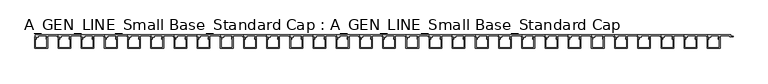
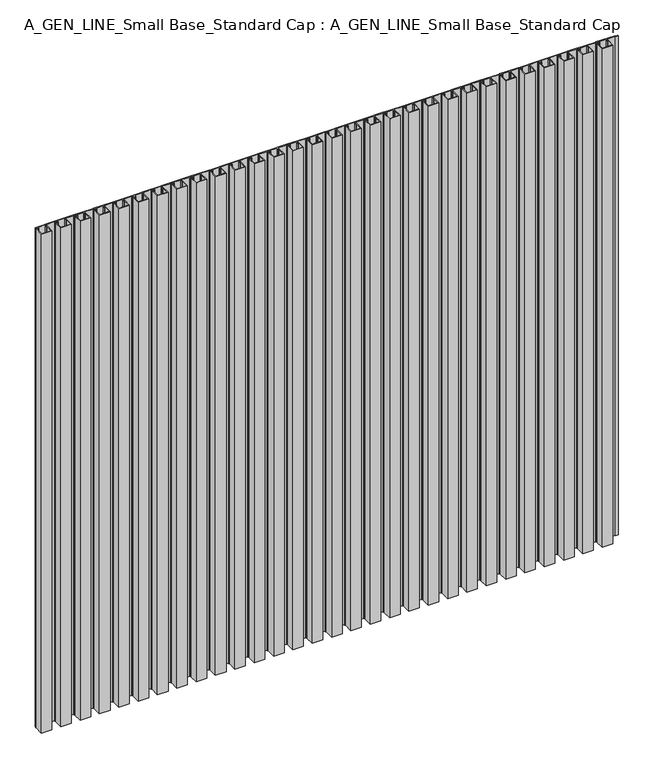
"""IFC4 building model written with IfcOpenShell, lengths in millimetres: proxy geometry, A_GEN_LINE_Small Base_Standard Cap : A_GEN_LINE_Small Base_Standard Cap."""

from ifc_helpers import new_model, si_unit, origin, origin_with_axes, place, context, project, spatial, polyline, outline, extrude, source, transform, mapped, element, save


def a_gen_line_small_base_standard_cap_a_gen_line_small_base_28fe45ff(model_context):
    return source(origin(), model_context, "Body", "SweptSolid", [
        extrude(outline(polyline([(1594.5994542, -32.2007192), (1594.5994542, -6.1), (1596.7484612, -6.1), (1596.7484612, -8.3419727), (1595.9994542, -8.5826662), (1595.9994542, -30.8007192), (1623.1994542, -30.8007192), (1623.1994542, -8.5826662), (1622.4504472, -8.3419727), (1622.4504472, -6.1), (1624.5994542, -6.1), (1624.5994542, -32.2007192), (1594.5994542, -32.2007192)])), origin_with_axes(), (0.0, 0.0, 1.0), 1500.0),
        extrude(outline(polyline([(1539.5989548, -32.2007192), (1539.5989548, -6.1), (1541.7479618, -6.1), (1541.7479618, -8.3419727), (1540.9989548, -8.5826662), (1540.9989548, -30.8007192), (1568.1989548, -30.8007192), (1568.1989548, -8.5826662), (1567.4499478, -8.3419727), (1567.4499478, -6.1), (1569.5989548, -6.1), (1569.5989548, -32.2007192), (1539.5989548, -32.2007192)])), origin_with_axes(), (0.0, 0.0, 1.0), 1500.0),
        extrude(outline(polyline([(1484.5984554, -32.2007192), (1484.5984554, -6.1), (1486.7474624, -6.1), (1486.7474624, -8.3419727), (1485.9984554, -8.5826662), (1485.9984554, -30.8007192), (1513.1984554, -30.8007192), (1513.1984554, -8.5826662), (1512.4494485, -8.3419727), (1512.4494485, -6.1), (1514.5984554, -6.1), (1514.5984554, -32.2007192), (1484.5984554, -32.2007192)])), origin_with_axes(), (0.0, 0.0, 1.0), 1500.0),
        extrude(outline(polyline([(1429.597956, -32.2007192), (1429.597956, -6.1), (1431.746963, -6.1), (1431.746963, -8.3419727), (1430.997956, -8.5826662), (1430.997956, -30.8007192), (1458.197956, -30.8007192), (1458.197956, -8.5826662), (1457.4489491, -8.3419727), (1457.4489491, -6.1), (1459.597956, -6.1), (1459.597956, -32.2007192), (1429.597956, -32.2007192)])), origin_with_axes(), (0.0, 0.0, 1.0), 1500.0),
        extrude(outline(polyline([(1374.5974566, -32.2007192), (1374.5974566, -6.1), (1376.7464636, -6.1), (1376.7464636, -8.3419727), (1375.9974566, -8.5826662), (1375.9974566, -30.8007192), (1403.1974566, -30.8007192), (1403.1974566, -8.5826662), (1402.4484497, -8.3419727), (1402.4484497, -6.1), (1404.5974566, -6.1), (1404.5974566, -32.2007192), (1374.5974566, -32.2007192)])), origin_with_axes(), (0.0, 0.0, 1.0), 1500.0),
        extrude(outline(polyline([(1319.5969572, -32.2007192), (1319.5969572, -6.1), (1321.7459642, -6.1), (1321.7459642, -8.3419727), (1320.9969572, -8.5826662), (1320.9969572, -30.8007192), (1348.1969572, -30.8007192), (1348.1969572, -8.5826662), (1347.4479503, -8.3419727), (1347.4479503, -6.1), (1349.5969572, -6.1), (1349.5969572, -32.2007192), (1319.5969572, -32.2007192)])), origin_with_axes(), (0.0, 0.0, 1.0), 1500.0),
        extrude(outline(polyline([(1264.5964579, -32.2007192), (1264.5964579, -6.1), (1266.7454648, -6.1), (1266.7454648, -8.3419727), (1265.9964579, -8.5826662), (1265.9964579, -30.8007192), (1293.1964579, -30.8007192), (1293.1964579, -8.5826662), (1292.4474509, -8.3419727), (1292.4474509, -6.1), (1294.5964579, -6.1), (1294.5964579, -32.2007192), (1264.5964579, -32.2007192)])), origin_with_axes(), (0.0, 0.0, 1.0), 1500.0),
        extrude(outline(polyline([(1209.5959585, -32.2007192), (1209.5959585, -6.1), (1211.7449654, -6.1), (1211.7449654, -8.3419727), (1210.9959585, -8.5826662), (1210.9959585, -30.8007192), (1238.1959585, -30.8007192), (1238.1959585, -8.5826662), (1237.4469515, -8.3419727), (1237.4469515, -6.1), (1239.5959585, -6.1), (1239.5959585, -32.2007192), (1209.5959585, -32.2007192)])), origin_with_axes(), (0.0, 0.0, 1.0), 1500.0),
        extrude(outline(polyline([(1595.0, 0.0), (1649.5728944, 0.0), (1649.5728944, -2.85), (1655.5728944, -2.85), (1655.5728944, -4.2), (1648.0545393, -4.2), (1648.0545393, -2.4), (1624.5849719, -2.4), (1624.5849719, -6.1021884), (1623.4699984, -6.1021884), (1621.8814326, -8.4994005), (1623.1433665, -8.4994005), (1623.1433665, -10.4818695), (1620.9408405, -10.4818695), (1620.9408405, -5.6343123), (1623.0399616, -2.4), (1602.2195527, -2.4), (1602.2195527, -6.1), (1598.2291033, -6.1), (1598.2291033, -10.4818695), (1596.0265772, -10.4818695), (1596.0265772, -8.4994005), (1597.2885111, -8.4994005), (1595.6999453, -6.1021884), (1594.6137598, -6.1021884), (1594.6137598, -4.9), (1601.0195527, -4.9), (1601.0195527, -2.7), (1595.0, -2.7), (1595.0, 0.0)])), origin_with_axes(), (0.0, 0.0, 1.0), 1500.0),
        extrude(outline(polyline([(1540.0, 0.0), (1594.5728944, 0.0), (1594.5728944, -2.85), (1600.5728944, -2.85), (1600.5728944, -4.2), (1593.0545393, -4.2), (1593.0545393, -2.4), (1569.5849719, -2.4), (1569.5849719, -6.1021884), (1568.4699984, -6.1021884), (1566.8814326, -8.4994005), (1568.1433665, -8.4994005), (1568.1433665, -10.4818695), (1565.9408405, -10.4818695), (1565.9408405, -5.6343123), (1568.0399616, -2.4), (1547.2195527, -2.4), (1547.2195527, -6.1), (1543.2291033, -6.1), (1543.2291033, -10.4818695), (1541.0265772, -10.4818695), (1541.0265772, -8.4994005), (1542.2885111, -8.4994005), (1540.6999453, -6.1021884), (1539.6137598, -6.1021884), (1539.6137598, -4.9), (1546.0195527, -4.9), (1546.0195527, -2.7), (1540.0, -2.7), (1540.0, 0.0)])), origin_with_axes(), (0.0, 0.0, 1.0), 1500.0),
        extrude(outline(polyline([(1485.0, 0.0), (1539.5728944, 0.0), (1539.5728944, -2.85), (1545.5728944, -2.85), (1545.5728944, -4.2), (1538.0545393, -4.2), (1538.0545393, -2.4), (1514.5849719, -2.4), (1514.5849719, -6.1021884), (1513.4699984, -6.1021884), (1511.8814326, -8.4994005), (1513.1433665, -8.4994005), (1513.1433665, -10.4818695), (1510.9408405, -10.4818695), (1510.9408405, -5.6343123), (1513.0399616, -2.4), (1492.2195527, -2.4), (1492.2195527, -6.1), (1488.2291033, -6.1), (1488.2291033, -10.4818695), (1486.0265772, -10.4818695), (1486.0265772, -8.4994005), (1487.2885111, -8.4994005), (1485.6999453, -6.1021884), (1484.6137598, -6.1021884), (1484.6137598, -4.9), (1491.0195527, -4.9), (1491.0195527, -2.7), (1485.0, -2.7), (1485.0, 0.0)])), origin_with_axes(), (0.0, 0.0, 1.0), 1500.0),
        extrude(outline(polyline([(1430.0, 0.0), (1484.5728944, 0.0), (1484.5728944, -2.85), (1490.5728944, -2.85), (1490.5728944, -4.2), (1483.0545393, -4.2), (1483.0545393, -2.4), (1459.5849719, -2.4), (1459.5849719, -6.1021884), (1458.4699984, -6.1021884), (1456.8814326, -8.4994005), (1458.1433665, -8.4994005), (1458.1433665, -10.4818695), (1455.9408405, -10.4818695), (1455.9408405, -5.6343123), (1458.0399616, -2.4), (1437.2195527, -2.4), (1437.2195527, -6.1), (1433.2291033, -6.1), (1433.2291033, -10.4818695), (1431.0265772, -10.4818695), (1431.0265772, -8.4994005), (1432.2885111, -8.4994005), (1430.6999453, -6.1021884), (1429.6137598, -6.1021884), (1429.6137598, -4.9), (1436.0195527, -4.9), (1436.0195527, -2.7), (1430.0, -2.7), (1430.0, 0.0)])), origin_with_axes(), (0.0, 0.0, 1.0), 1500.0),
        extrude(outline(polyline([(1375.0, 0.0), (1429.5728944, 0.0), (1429.5728944, -2.85), (1435.5728944, -2.85), (1435.5728944, -4.2), (1428.0545393, -4.2), (1428.0545393, -2.4), (1404.5849719, -2.4), (1404.5849719, -6.1021884), (1403.4699984, -6.1021884), (1401.8814326, -8.4994005), (1403.1433665, -8.4994005), (1403.1433665, -10.4818695), (1400.9408405, -10.4818695), (1400.9408405, -5.6343123), (1403.0399616, -2.4), (1382.2195527, -2.4), (1382.2195527, -6.1), (1378.2291033, -6.1), (1378.2291033, -10.4818695), (1376.0265772, -10.4818695), (1376.0265772, -8.4994005), (1377.2885111, -8.4994005), (1375.6999453, -6.1021884), (1374.6137598, -6.1021884), (1374.6137598, -4.9), (1381.0195527, -4.9), (1381.0195527, -2.7), (1375.0, -2.7), (1375.0, 0.0)])), origin_with_axes(), (0.0, 0.0, 1.0), 1500.0),
        extrude(outline(polyline([(1320.0, 0.0), (1374.5728944, 0.0), (1374.5728944, -2.85), (1380.5728944, -2.85), (1380.5728944, -4.2), (1373.0545393, -4.2), (1373.0545393, -2.4), (1349.5849719, -2.4), (1349.5849719, -6.1021884), (1348.4699984, -6.1021884), (1346.8814326, -8.4994005), (1348.1433665, -8.4994005), (1348.1433665, -10.4818695), (1345.9408405, -10.4818695), (1345.9408405, -5.6343123), (1348.0399616, -2.4), (1327.2195527, -2.4), (1327.2195527, -6.1), (1323.2291033, -6.1), (1323.2291033, -10.4818695), (1321.0265772, -10.4818695), (1321.0265772, -8.4994005), (1322.2885111, -8.4994005), (1320.6999453, -6.1021884), (1319.6137598, -6.1021884), (1319.6137598, -4.9), (1326.0195527, -4.9), (1326.0195527, -2.7), (1320.0, -2.7), (1320.0, 0.0)])), origin_with_axes(), (0.0, 0.0, 1.0), 1500.0),
        extrude(outline(polyline([(1265.0, 0.0), (1319.5728944, 0.0), (1319.5728944, -2.85), (1325.5728944, -2.85), (1325.5728944, -4.2), (1318.0545393, -4.2), (1318.0545393, -2.4), (1294.5849719, -2.4), (1294.5849719, -6.1021884), (1293.4699984, -6.1021884), (1291.8814326, -8.4994005), (1293.1433665, -8.4994005), (1293.1433665, -10.4818695), (1290.9408405, -10.4818695), (1290.9408405, -5.6343123), (1293.0399616, -2.4), (1272.2195527, -2.4), (1272.2195527, -6.1), (1268.2291033, -6.1), (1268.2291033, -10.4818695), (1266.0265772, -10.4818695), (1266.0265772, -8.4994005), (1267.2885111, -8.4994005), (1265.6999453, -6.1021884), (1264.6137598, -6.1021884), (1264.6137598, -4.9), (1271.0195527, -4.9), (1271.0195527, -2.7), (1265.0, -2.7), (1265.0, 0.0)])), origin_with_axes(), (0.0, 0.0, 1.0), 1500.0),
        extrude(outline(polyline([(1210.0, 0.0), (1264.5728944, 0.0), (1264.5728944, -2.85), (1270.5728944, -2.85), (1270.5728944, -4.2), (1263.0545393, -4.2), (1263.0545393, -2.4), (1239.5849719, -2.4), (1239.5849719, -6.1021884), (1238.4699984, -6.1021884), (1236.8814326, -8.4994005), (1238.1433665, -8.4994005), (1238.1433665, -10.4818695), (1235.9408405, -10.4818695), (1235.9408405, -5.6343123), (1238.0399616, -2.4), (1217.2195527, -2.4), (1217.2195527, -6.1), (1213.2291033, -6.1), (1213.2291033, -10.4818695), (1211.0265772, -10.4818695), (1211.0265772, -8.4994005), (1212.2885111, -8.4994005), (1210.6999453, -6.1021884), (1209.6137598, -6.1021884), (1209.6137598, -4.9), (1216.0195527, -4.9), (1216.0195527, -2.7), (1210.0, -2.7), (1210.0, 0.0)])), origin_with_axes(), (0.0, 0.0, 1.0), 1500.0),
        extrude(outline(polyline([(1154.5954591, -32.2007192), (1154.5954591, -6.1), (1156.744466, -6.1), (1156.744466, -8.3419727), (1155.9954591, -8.5826662), (1155.9954591, -30.8007192), (1183.1954591, -30.8007192), (1183.1954591, -8.5826662), (1182.4464521, -8.3419727), (1182.4464521, -6.1), (1184.5954591, -6.1), (1184.5954591, -32.2007192), (1154.5954591, -32.2007192)])), origin_with_axes(), (0.0, 0.0, 1.0), 1500.0),
        extrude(outline(polyline([(1099.5949597, -32.2007192), (1099.5949597, -6.1), (1101.7439666, -6.1), (1101.7439666, -8.3419727), (1100.9949597, -8.5826662), (1100.9949597, -30.8007192), (1128.1949597, -30.8007192), (1128.1949597, -8.5826662), (1127.4459527, -8.3419727), (1127.4459527, -6.1), (1129.5949597, -6.1), (1129.5949597, -32.2007192), (1099.5949597, -32.2007192)])), origin_with_axes(), (0.0, 0.0, 1.0), 1500.0),
        extrude(outline(polyline([(1044.5944603, -32.2007192), (1044.5944603, -6.1), (1046.7434673, -6.1), (1046.7434673, -8.3419727), (1045.9944603, -8.5826662), (1045.9944603, -30.8007192), (1073.1944603, -30.8007192), (1073.1944603, -8.5826662), (1072.4454533, -8.3419727), (1072.4454533, -6.1), (1074.5944603, -6.1), (1074.5944603, -32.2007192), (1044.5944603, -32.2007192)])), origin_with_axes(), (0.0, 0.0, 1.0), 1500.0),
        extrude(outline(polyline([(989.5939609, -32.2007192), (989.5939609, -6.1), (991.7429679, -6.1), (991.7429679, -8.3419727), (990.9939609, -8.5826662), (990.9939609, -30.8007192), (1018.1939609, -30.8007192), (1018.1939609, -8.5826662), (1017.4449539, -8.3419727), (1017.4449539, -6.1), (1019.5939609, -6.1), (1019.5939609, -32.2007192), (989.5939609, -32.2007192)])), origin_with_axes(), (0.0, 0.0, 1.0), 1500.0),
        extrude(outline(polyline([(934.5934615, -32.2007192), (934.5934615, -6.1), (936.7424685, -6.1), (936.7424685, -8.3419727), (935.9934615, -8.5826662), (935.9934615, -30.8007192), (963.1934615, -30.8007192), (963.1934615, -8.5826662), (962.4444546, -8.3419727), (962.4444546, -6.1), (964.5934615, -6.1), (964.5934615, -32.2007192), (934.5934615, -32.2007192)])), origin_with_axes(), (0.0, 0.0, 1.0), 1500.0),
        extrude(outline(polyline([(879.5929621, -32.2007192), (879.5929621, -6.1), (881.7419691, -6.1), (881.7419691, -8.3419727), (880.9929621, -8.5826662), (880.9929621, -30.8007192), (908.1929621, -30.8007192), (908.1929621, -8.5826662), (907.4439552, -8.3419727), (907.4439552, -6.1), (909.5929621, -6.1), (909.5929621, -32.2007192), (879.5929621, -32.2007192)])), origin_with_axes(), (0.0, 0.0, 1.0), 1500.0),
        extrude(outline(polyline([(824.5924627, -32.2007192), (824.5924627, -6.1), (826.7414697, -6.1), (826.7414697, -8.3419727), (825.9924627, -8.5826662), (825.9924627, -30.8007192), (853.1924627, -30.8007192), (853.1924627, -8.5826662), (852.4434558, -8.3419727), (852.4434558, -6.1), (854.5924627, -6.1), (854.5924627, -32.2007192), (824.5924627, -32.2007192)])), origin_with_axes(), (0.0, 0.0, 1.0), 1500.0),
        extrude(outline(polyline([(769.5919633, -32.2007192), (769.5919633, -6.1), (771.7409703, -6.1), (771.7409703, -8.3419727), (770.9919633, -8.5826662), (770.9919633, -30.8007192), (798.1919633, -30.8007192), (798.1919633, -8.5826662), (797.4429564, -8.3419727), (797.4429564, -6.1), (799.5919633, -6.1), (799.5919633, -32.2007192), (769.5919633, -32.2007192)])), origin_with_axes(), (0.0, 0.0, 1.0), 1500.0),
        extrude(outline(polyline([(714.5914639, -32.2007192), (714.5914639, -6.1), (716.7404709, -6.1), (716.7404709, -8.3419727), (715.9914639, -8.5826662), (715.9914639, -30.8007192), (743.1914639, -30.8007192), (743.1914639, -8.5826662), (742.442457, -8.3419727), (742.442457, -6.1), (744.5914639, -6.1), (744.5914639, -32.2007192), (714.5914639, -32.2007192)])), origin_with_axes(), (0.0, 0.0, 1.0), 1500.0),
        extrude(outline(polyline([(659.5909646, -32.2007192), (659.5909646, -6.1), (661.7399715, -6.1), (661.7399715, -8.3419727), (660.9909646, -8.5826662), (660.9909646, -30.8007192), (688.1909646, -30.8007192), (688.1909646, -8.5826662), (687.4419576, -8.3419727), (687.4419576, -6.1), (689.5909646, -6.1), (689.5909646, -32.2007192), (659.5909646, -32.2007192)])), origin_with_axes(), (0.0, 0.0, 1.0), 1500.0),
        extrude(outline(polyline([(604.5904652, -32.2007192), (604.5904652, -6.1), (606.7394721, -6.1), (606.7394721, -8.3419727), (605.9904652, -8.5826662), (605.9904652, -30.8007192), (633.1904652, -30.8007192), (633.1904652, -8.5826662), (632.4414582, -8.3419727), (632.4414582, -6.1), (634.5904652, -6.1), (634.5904652, -32.2007192), (604.5904652, -32.2007192)])), origin_with_axes(), (0.0, 0.0, 1.0), 1500.0),
        extrude(outline(polyline([(549.5899658, -32.2007192), (549.5899658, -6.1), (551.7389727, -6.1), (551.7389727, -8.3419727), (550.9899658, -8.5826662), (550.9899658, -30.8007192), (578.1899658, -30.8007192), (578.1899658, -8.5826662), (577.4409588, -8.3419727), (577.4409588, -6.1), (579.5899658, -6.1), (579.5899658, -32.2007192), (549.5899658, -32.2007192)])), origin_with_axes(), (0.0, 0.0, 1.0), 1500.0),
        extrude(outline(polyline([(494.5894664, -32.2007192), (494.5894664, -6.1), (496.7384733, -6.1), (496.7384733, -8.3419727), (495.9894664, -8.5826662), (495.9894664, -30.8007192), (523.1894664, -30.8007192), (523.1894664, -8.5826662), (522.4404594, -8.3419727), (522.4404594, -6.1), (524.5894664, -6.1), (524.5894664, -32.2007192), (494.5894664, -32.2007192)])), origin_with_axes(), (0.0, 0.0, 1.0), 1500.0),
        extrude(outline(polyline([(439.588967, -32.2007192), (439.588967, -6.1), (441.737974, -6.1), (441.737974, -8.3419727), (440.988967, -8.5826662), (440.988967, -30.8007192), (468.188967, -30.8007192), (468.188967, -8.5826662), (467.43996, -8.3419727), (467.43996, -6.1), (469.588967, -6.1), (469.588967, -32.2007192), (439.588967, -32.2007192)])), origin_with_axes(), (0.0, 0.0, 1.0), 1500.0),
        extrude(outline(polyline([(384.5884676, -32.2007192), (384.5884676, -6.1), (386.7374746, -6.1), (386.7374746, -8.3419727), (385.9884676, -8.5826662), (385.9884676, -30.8007192), (413.1884676, -30.8007192), (413.1884676, -8.5826662), (412.4394606, -8.3419727), (412.4394606, -6.1), (414.5884676, -6.1), (414.5884676, -32.2007192), (384.5884676, -32.2007192)])), origin_with_axes(), (0.0, 0.0, 1.0), 1500.0),
        extrude(outline(polyline([(1155.0, 0.0), (1209.5728944, 0.0), (1209.5728944, -2.85), (1215.5728944, -2.85), (1215.5728944, -4.2), (1208.0545393, -4.2), (1208.0545393, -2.4), (1184.5849719, -2.4), (1184.5849719, -6.1021884), (1183.4699984, -6.1021884), (1181.8814326, -8.4994005), (1183.1433665, -8.4994005), (1183.1433665, -10.4818695), (1180.9408405, -10.4818695), (1180.9408405, -5.6343123), (1183.0399616, -2.4), (1162.2195527, -2.4), (1162.2195527, -6.1), (1158.2291033, -6.1), (1158.2291033, -10.4818695), (1156.0265772, -10.4818695), (1156.0265772, -8.4994005), (1157.2885111, -8.4994005), (1155.6999453, -6.1021884), (1154.6137598, -6.1021884), (1154.6137598, -4.9), (1161.0195527, -4.9), (1161.0195527, -2.7), (1155.0, -2.7), (1155.0, 0.0)])), origin_with_axes(), (0.0, 0.0, 1.0), 1500.0),
        extrude(outline(polyline([(1100.0, 0.0), (1154.5728944, 0.0), (1154.5728944, -2.85), (1160.5728944, -2.85), (1160.5728944, -4.2), (1153.0545393, -4.2), (1153.0545393, -2.4), (1129.5849719, -2.4), (1129.5849719, -6.1021884), (1128.4699984, -6.1021884), (1126.8814326, -8.4994005), (1128.1433665, -8.4994005), (1128.1433665, -10.4818695), (1125.9408405, -10.4818695), (1125.9408405, -5.6343123), (1128.0399616, -2.4), (1107.2195527, -2.4), (1107.2195527, -6.1), (1103.2291033, -6.1), (1103.2291033, -10.4818695), (1101.0265772, -10.4818695), (1101.0265772, -8.4994005), (1102.2885111, -8.4994005), (1100.6999453, -6.1021884), (1099.6137598, -6.1021884), (1099.6137598, -4.9), (1106.0195527, -4.9), (1106.0195527, -2.7), (1100.0, -2.7), (1100.0, 0.0)])), origin_with_axes(), (0.0, 0.0, 1.0), 1500.0),
        extrude(outline(polyline([(1045.0, 0.0), (1099.5728944, 0.0), (1099.5728944, -2.85), (1105.5728944, -2.85), (1105.5728944, -4.2), (1098.0545393, -4.2), (1098.0545393, -2.4), (1074.5849719, -2.4), (1074.5849719, -6.1021884), (1073.4699984, -6.1021884), (1071.8814326, -8.4994005), (1073.1433665, -8.4994005), (1073.1433665, -10.4818695), (1070.9408405, -10.4818695), (1070.9408405, -5.6343123), (1073.0399616, -2.4), (1052.2195527, -2.4), (1052.2195527, -6.1), (1048.2291033, -6.1), (1048.2291033, -10.4818695), (1046.0265772, -10.4818695), (1046.0265772, -8.4994005), (1047.2885111, -8.4994005), (1045.6999453, -6.1021884), (1044.6137598, -6.1021884), (1044.6137598, -4.9), (1051.0195527, -4.9), (1051.0195527, -2.7), (1045.0, -2.7), (1045.0, 0.0)])), origin_with_axes(), (0.0, 0.0, 1.0), 1500.0),
        extrude(outline(polyline([(990.0, 0.0), (1044.5728944, 0.0), (1044.5728944, -2.85), (1050.5728944, -2.85), (1050.5728944, -4.2), (1043.0545393, -4.2), (1043.0545393, -2.4), (1019.5849719, -2.4), (1019.5849719, -6.1021884), (1018.4699984, -6.1021884), (1016.8814326, -8.4994005), (1018.1433665, -8.4994005), (1018.1433665, -10.4818695), (1015.9408405, -10.4818695), (1015.9408405, -5.6343123), (1018.0399616, -2.4), (997.2195527, -2.4), (997.2195527, -6.1), (993.2291033, -6.1), (993.2291033, -10.4818695), (991.0265772, -10.4818695), (991.0265772, -8.4994005), (992.2885111, -8.4994005), (990.6999453, -6.1021884), (989.6137598, -6.1021884), (989.6137598, -4.9), (996.0195527, -4.9), (996.0195527, -2.7), (990.0, -2.7), (990.0, 0.0)])), origin_with_axes(), (0.0, 0.0, 1.0), 1500.0),
        extrude(outline(polyline([(935.0, 0.0), (989.5728944, 0.0), (989.5728944, -2.85), (995.5728944, -2.85), (995.5728944, -4.2), (988.0545393, -4.2), (988.0545393, -2.4), (964.5849719, -2.4), (964.5849719, -6.1021884), (963.4699984, -6.1021884), (961.8814326, -8.4994005), (963.1433665, -8.4994005), (963.1433665, -10.4818695), (960.9408405, -10.4818695), (960.9408405, -5.6343123), (963.0399616, -2.4), (942.2195527, -2.4), (942.2195527, -6.1), (938.2291033, -6.1), (938.2291033, -10.4818695), (936.0265772, -10.4818695), (936.0265772, -8.4994005), (937.2885111, -8.4994005), (935.6999453, -6.1021884), (934.6137598, -6.1021884), (934.6137598, -4.9), (941.0195527, -4.9), (941.0195527, -2.7), (935.0, -2.7), (935.0, 0.0)])), origin_with_axes(), (0.0, 0.0, 1.0), 1500.0),
        extrude(outline(polyline([(880.0, 0.0), (934.5728944, 0.0), (934.5728944, -2.85), (940.5728944, -2.85), (940.5728944, -4.2), (933.0545393, -4.2), (933.0545393, -2.4), (909.5849719, -2.4), (909.5849719, -6.1021884), (908.4699984, -6.1021884), (906.8814326, -8.4994005), (908.1433665, -8.4994005), (908.1433665, -10.4818695), (905.9408405, -10.4818695), (905.9408405, -5.6343123), (908.0399616, -2.4), (887.2195527, -2.4), (887.2195527, -6.1), (883.2291033, -6.1), (883.2291033, -10.4818695), (881.0265772, -10.4818695), (881.0265772, -8.4994005), (882.2885111, -8.4994005), (880.6999453, -6.1021884), (879.6137598, -6.1021884), (879.6137598, -4.9), (886.0195527, -4.9), (886.0195527, -2.7), (880.0, -2.7), (880.0, 0.0)])), origin_with_axes(), (0.0, 0.0, 1.0), 1500.0),
        extrude(outline(polyline([(825.0, 0.0), (879.5728944, 0.0), (879.5728944, -2.85), (885.5728944, -2.85), (885.5728944, -4.2), (878.0545393, -4.2), (878.0545393, -2.4), (854.5849719, -2.4), (854.5849719, -6.1021884), (853.4699984, -6.1021884), (851.8814326, -8.4994005), (853.1433665, -8.4994005), (853.1433665, -10.4818695), (850.9408405, -10.4818695), (850.9408405, -5.6343123), (853.0399616, -2.4), (832.2195527, -2.4), (832.2195527, -6.1), (828.2291033, -6.1), (828.2291033, -10.4818695), (826.0265772, -10.4818695), (826.0265772, -8.4994005), (827.2885111, -8.4994005), (825.6999453, -6.1021884), (824.6137598, -6.1021884), (824.6137598, -4.9), (831.0195527, -4.9), (831.0195527, -2.7), (825.0, -2.7), (825.0, 0.0)])), origin_with_axes(), (0.0, 0.0, 1.0), 1500.0),
        extrude(outline(polyline([(770.0, 0.0), (824.5728944, 0.0), (824.5728944, -2.85), (830.5728944, -2.85), (830.5728944, -4.2), (823.0545393, -4.2), (823.0545393, -2.4), (799.5849719, -2.4), (799.5849719, -6.1021884), (798.4699984, -6.1021884), (796.8814326, -8.4994005), (798.1433665, -8.4994005), (798.1433665, -10.4818695), (795.9408405, -10.4818695), (795.9408405, -5.6343123), (798.0399616, -2.4), (777.2195527, -2.4), (777.2195527, -6.1), (773.2291033, -6.1), (773.2291033, -10.4818695), (771.0265772, -10.4818695), (771.0265772, -8.4994005), (772.2885111, -8.4994005), (770.6999453, -6.1021884), (769.6137598, -6.1021884), (769.6137598, -4.9), (776.0195527, -4.9), (776.0195527, -2.7), (770.0, -2.7), (770.0, 0.0)])), origin_with_axes(), (0.0, 0.0, 1.0), 1500.0),
        extrude(outline(polyline([(715.0, 0.0), (769.5728944, 0.0), (769.5728944, -2.85), (775.5728944, -2.85), (775.5728944, -4.2), (768.0545393, -4.2), (768.0545393, -2.4), (744.5849719, -2.4), (744.5849719, -6.1021884), (743.4699984, -6.1021884), (741.8814326, -8.4994005), (743.1433665, -8.4994005), (743.1433665, -10.4818695), (740.9408405, -10.4818695), (740.9408405, -5.6343123), (743.0399616, -2.4), (722.2195527, -2.4), (722.2195527, -6.1), (718.2291033, -6.1), (718.2291033, -10.4818695), (716.0265772, -10.4818695), (716.0265772, -8.4994005), (717.2885111, -8.4994005), (715.6999453, -6.1021884), (714.6137598, -6.1021884), (714.6137598, -4.9), (721.0195527, -4.9), (721.0195527, -2.7), (715.0, -2.7), (715.0, 0.0)])), origin_with_axes(), (0.0, 0.0, 1.0), 1500.0),
        extrude(outline(polyline([(660.0, 0.0), (714.5728944, 0.0), (714.5728944, -2.85), (720.5728944, -2.85), (720.5728944, -4.2), (713.0545393, -4.2), (713.0545393, -2.4), (689.5849719, -2.4), (689.5849719, -6.1021884), (688.4699984, -6.1021884), (686.8814326, -8.4994005), (688.1433665, -8.4994005), (688.1433665, -10.4818695), (685.9408405, -10.4818695), (685.9408405, -5.6343123), (688.0399616, -2.4), (667.2195527, -2.4), (667.2195527, -6.1), (663.2291033, -6.1), (663.2291033, -10.4818695), (661.0265772, -10.4818695), (661.0265772, -8.4994005), (662.2885111, -8.4994005), (660.6999453, -6.1021884), (659.6137598, -6.1021884), (659.6137598, -4.9), (666.0195527, -4.9), (666.0195527, -2.7), (660.0, -2.7), (660.0, 0.0)])), origin_with_axes(), (0.0, 0.0, 1.0), 1500.0),
        extrude(outline(polyline([(605.0, 0.0), (659.5728944, 0.0), (659.5728944, -2.85), (665.5728944, -2.85), (665.5728944, -4.2), (658.0545393, -4.2), (658.0545393, -2.4), (634.5849719, -2.4), (634.5849719, -6.1021884), (633.4699984, -6.1021884), (631.8814326, -8.4994005), (633.1433665, -8.4994005), (633.1433665, -10.4818695), (630.9408405, -10.4818695), (630.9408405, -5.6343123), (633.0399616, -2.4), (612.2195527, -2.4), (612.2195527, -6.1), (608.2291033, -6.1), (608.2291033, -10.4818695), (606.0265772, -10.4818695), (606.0265772, -8.4994005), (607.2885111, -8.4994005), (605.6999453, -6.1021884), (604.6137598, -6.1021884), (604.6137598, -4.9), (611.0195527, -4.9), (611.0195527, -2.7), (605.0, -2.7), (605.0, 0.0)])), origin_with_axes(), (0.0, 0.0, 1.0), 1500.0),
        extrude(outline(polyline([(550.0, 0.0), (604.5728944, 0.0), (604.5728944, -2.85), (610.5728944, -2.85), (610.5728944, -4.2), (603.0545393, -4.2), (603.0545393, -2.4), (579.5849719, -2.4), (579.5849719, -6.1021884), (578.4699984, -6.1021884), (576.8814326, -8.4994005), (578.1433665, -8.4994005), (578.1433665, -10.4818695), (575.9408405, -10.4818695), (575.9408405, -5.6343123), (578.0399616, -2.4), (557.2195527, -2.4), (557.2195527, -6.1), (553.2291033, -6.1), (553.2291033, -10.4818695), (551.0265772, -10.4818695), (551.0265772, -8.4994005), (552.2885111, -8.4994005), (550.6999453, -6.1021884), (549.6137598, -6.1021884), (549.6137598, -4.9), (556.0195527, -4.9), (556.0195527, -2.7), (550.0, -2.7), (550.0, 0.0)])), origin_with_axes(), (0.0, 0.0, 1.0), 1500.0),
        extrude(outline(polyline([(495.0, 0.0), (549.5728944, 0.0), (549.5728944, -2.85), (555.5728944, -2.85), (555.5728944, -4.2), (548.0545393, -4.2), (548.0545393, -2.4), (524.5849719, -2.4), (524.5849719, -6.1021884), (523.4699984, -6.1021884), (521.8814326, -8.4994005), (523.1433665, -8.4994005), (523.1433665, -10.4818695), (520.9408405, -10.4818695), (520.9408405, -5.6343123), (523.0399616, -2.4), (502.2195527, -2.4), (502.2195527, -6.1), (498.2291033, -6.1), (498.2291033, -10.4818695), (496.0265772, -10.4818695), (496.0265772, -8.4994005), (497.2885111, -8.4994005), (495.6999453, -6.1021884), (494.6137598, -6.1021884), (494.6137598, -4.9), (501.0195527, -4.9), (501.0195527, -2.7), (495.0, -2.7), (495.0, 0.0)])), origin_with_axes(), (0.0, 0.0, 1.0), 1500.0),
        extrude(outline(polyline([(440.0, 0.0), (494.5728944, 0.0), (494.5728944, -2.85), (500.5728944, -2.85), (500.5728944, -4.2), (493.0545393, -4.2), (493.0545393, -2.4), (469.5849719, -2.4), (469.5849719, -6.1021884), (468.4699984, -6.1021884), (466.8814326, -8.4994005), (468.1433665, -8.4994005), (468.1433665, -10.4818695), (465.9408405, -10.4818695), (465.9408405, -5.6343123), (468.0399616, -2.4), (447.2195527, -2.4), (447.2195527, -6.1), (443.2291033, -6.1), (443.2291033, -10.4818695), (441.0265772, -10.4818695), (441.0265772, -8.4994005), (442.2885111, -8.4994005), (440.6999453, -6.1021884), (439.6137598, -6.1021884), (439.6137598, -4.9), (446.0195527, -4.9), (446.0195527, -2.7), (440.0, -2.7), (440.0, 0.0)])), origin_with_axes(), (0.0, 0.0, 1.0), 1500.0),
        extrude(outline(polyline([(385.0, 0.0), (439.5728944, 0.0), (439.5728944, -2.85), (445.5728944, -2.85), (445.5728944, -4.2), (438.0545393, -4.2), (438.0545393, -2.4), (414.5849719, -2.4), (414.5849719, -6.1021884), (413.4699984, -6.1021884), (411.8814326, -8.4994005), (413.1433665, -8.4994005), (413.1433665, -10.4818695), (410.9408405, -10.4818695), (410.9408405, -5.6343123), (413.0399616, -2.4), (392.2195527, -2.4), (392.2195527, -6.1), (388.2291033, -6.1), (388.2291033, -10.4818695), (386.0265772, -10.4818695), (386.0265772, -8.4994005), (387.2885111, -8.4994005), (385.6999453, -6.1021884), (384.6137598, -6.1021884), (384.6137598, -4.9), (391.0195527, -4.9), (391.0195527, -2.7), (385.0, -2.7), (385.0, 0.0)])), origin_with_axes(), (0.0, 0.0, 1.0), 1500.0),
        extrude(outline(polyline([(329.5879682, -32.2007192), (329.5879682, -6.1), (331.7369752, -6.1), (331.7369752, -8.3419727), (330.9879682, -8.5826662), (330.9879682, -30.8007192), (358.1879682, -30.8007192), (358.1879682, -8.5826662), (357.4389613, -8.3419727), (357.4389613, -6.1), (359.5879682, -6.1), (359.5879682, -32.2007192), (329.5879682, -32.2007192)])), origin_with_axes(), (0.0, 0.0, 1.0), 1500.0),
        extrude(outline(polyline([(274.5874688, -32.2007192), (274.5874688, -6.1), (276.7364758, -6.1), (276.7364758, -8.3419727), (275.9874688, -8.5826662), (275.9874688, -30.8007192), (303.1874688, -30.8007192), (303.1874688, -8.5826662), (302.4384619, -8.3419727), (302.4384619, -6.1), (304.5874688, -6.1), (304.5874688, -32.2007192), (274.5874688, -32.2007192)])), origin_with_axes(), (0.0, 0.0, 1.0), 1500.0),
        extrude(outline(polyline([(219.5869694, -32.2007192), (219.5869694, -6.1), (221.7359764, -6.1), (221.7359764, -8.3419727), (220.9869694, -8.5826662), (220.9869694, -30.8007192), (248.1869694, -30.8007192), (248.1869694, -8.5826662), (247.4379625, -8.3419727), (247.4379625, -6.1), (249.5869694, -6.1), (249.5869694, -32.2007192), (219.5869694, -32.2007192)])), origin_with_axes(), (0.0, 0.0, 1.0), 1500.0),
        extrude(outline(polyline([(164.58647, -32.2007192), (164.58647, -6.1), (166.735477, -6.1), (166.735477, -8.3419727), (165.98647, -8.5826662), (165.98647, -30.8007192), (193.18647, -30.8007192), (193.18647, -8.5826662), (192.4374631, -8.3419727), (192.4374631, -6.1), (194.58647, -6.1), (194.58647, -32.2007192), (164.58647, -32.2007192)])), origin_with_axes(), (0.0, 0.0, 1.0), 1500.0),
        extrude(outline(polyline([(109.5859707, -32.2007192), (109.5859707, -6.1), (111.7349776, -6.1), (111.7349776, -8.3419727), (110.9859707, -8.5826662), (110.9859707, -30.8007192), (138.1859707, -30.8007192), (138.1859707, -8.5826662), (137.4369637, -8.3419727), (137.4369637, -6.1), (139.5859707, -6.1), (139.5859707, -32.2007192), (109.5859707, -32.2007192)])), origin_with_axes(), (0.0, 0.0, 1.0), 1500.0),
        extrude(outline(polyline([(54.5854713, -32.2007192), (54.5854713, -6.1), (56.7344782, -6.1), (56.7344782, -8.3419727), (55.9854713, -8.5826662), (55.9854713, -30.8007192), (83.1854713, -30.8007192), (83.1854713, -8.5826662), (82.4364643, -8.3419727), (82.4364643, -6.1), (84.5854713, -6.1), (84.5854713, -32.2007192), (54.5854713, -32.2007192)])), origin_with_axes(), (0.0, 0.0, 1.0), 1500.0),
        extrude(outline(polyline([(-0.4150281, -32.2007192), (-0.4150281, -6.1), (1.7339788, -6.1), (1.7339788, -8.3419727), (0.9849719, -8.5826662), (0.9849719, -30.8007192), (28.1849719, -30.8007192), (28.1849719, -8.5826662), (27.4359649, -8.3419727), (27.4359649, -6.1), (29.5849719, -6.1), (29.5849719, -32.2007192), (-0.4150281, -32.2007192)])), origin_with_axes(), (0.0, 0.0, 1.0), 1500.0),
        extrude(outline(polyline([(330.0, 0.0), (384.5728944, 0.0), (384.5728944, -2.85), (390.5728944, -2.85), (390.5728944, -4.2), (383.0545393, -4.2), (383.0545393, -2.4), (359.5849719, -2.4), (359.5849719, -6.1021884), (358.4699984, -6.1021884), (356.8814326, -8.4994005), (358.1433665, -8.4994005), (358.1433665, -10.4818695), (355.9408405, -10.4818695), (355.9408405, -5.6343123), (358.0399616, -2.4), (337.2195527, -2.4), (337.2195527, -6.1), (333.2291033, -6.1), (333.2291033, -10.4818695), (331.0265772, -10.4818695), (331.0265772, -8.4994005), (332.2885111, -8.4994005), (330.6999453, -6.1021884), (329.6137598, -6.1021884), (329.6137598, -4.9), (336.0195527, -4.9), (336.0195527, -2.7), (330.0, -2.7), (330.0, 0.0)])), origin_with_axes(), (0.0, 0.0, 1.0), 1500.0),
        extrude(outline(polyline([(275.0, 0.0), (329.5728944, 0.0), (329.5728944, -2.85), (335.5728944, -2.85), (335.5728944, -4.2), (328.0545393, -4.2), (328.0545393, -2.4), (304.5849719, -2.4), (304.5849719, -6.1021884), (303.4699984, -6.1021884), (301.8814326, -8.4994005), (303.1433665, -8.4994005), (303.1433665, -10.4818695), (300.9408405, -10.4818695), (300.9408405, -5.6343123), (303.0399616, -2.4), (282.2195527, -2.4), (282.2195527, -6.1), (278.2291033, -6.1), (278.2291033, -10.4818695), (276.0265772, -10.4818695), (276.0265772, -8.4994005), (277.2885111, -8.4994005), (275.6999453, -6.1021884), (274.6137598, -6.1021884), (274.6137598, -4.9), (281.0195527, -4.9), (281.0195527, -2.7), (275.0, -2.7), (275.0, 0.0)])), origin_with_axes(), (0.0, 0.0, 1.0), 1500.0),
        extrude(outline(polyline([(220.0, 0.0), (274.5728944, 0.0), (274.5728944, -2.85), (280.5728944, -2.85), (280.5728944, -4.2), (273.0545393, -4.2), (273.0545393, -2.4), (249.5849719, -2.4), (249.5849719, -6.1021884), (248.4699984, -6.1021884), (246.8814326, -8.4994005), (248.1433665, -8.4994005), (248.1433665, -10.4818695), (245.9408405, -10.4818695), (245.9408405, -5.6343123), (248.0399616, -2.4), (227.2195527, -2.4), (227.2195527, -6.1), (223.2291033, -6.1), (223.2291033, -10.4818695), (221.0265772, -10.4818695), (221.0265772, -8.4994005), (222.2885111, -8.4994005), (220.6999453, -6.1021884), (219.6137598, -6.1021884), (219.6137598, -4.9), (226.0195527, -4.9), (226.0195527, -2.7), (220.0, -2.7), (220.0, 0.0)])), origin_with_axes(), (0.0, 0.0, 1.0), 1500.0),
        extrude(outline(polyline([(165.0, 0.0), (219.5728944, 0.0), (219.5728944, -2.85), (225.5728944, -2.85), (225.5728944, -4.2), (218.0545393, -4.2), (218.0545393, -2.4), (194.5849719, -2.4), (194.5849719, -6.1021884), (193.4699984, -6.1021884), (191.8814326, -8.4994005), (193.1433665, -8.4994005), (193.1433665, -10.4818695), (190.9408405, -10.4818695), (190.9408405, -5.6343123), (193.0399616, -2.4), (172.2195527, -2.4), (172.2195527, -6.1), (168.2291033, -6.1), (168.2291033, -10.4818695), (166.0265772, -10.4818695), (166.0265772, -8.4994005), (167.2885111, -8.4994005), (165.6999453, -6.1021884), (164.6137598, -6.1021884), (164.6137598, -4.9), (171.0195527, -4.9), (171.0195527, -2.7), (165.0, -2.7), (165.0, 0.0)])), origin_with_axes(), (0.0, 0.0, 1.0), 1500.0),
        extrude(outline(polyline([(110.0, 0.0), (164.5728944, 0.0), (164.5728944, -2.85), (170.5728944, -2.85), (170.5728944, -4.2), (163.0545393, -4.2), (163.0545393, -2.4), (139.5849719, -2.4), (139.5849719, -6.1021884), (138.4699984, -6.1021884), (136.8814326, -8.4994005), (138.1433665, -8.4994005), (138.1433665, -10.4818695), (135.9408405, -10.4818695), (135.9408405, -5.6343123), (138.0399616, -2.4), (117.2195527, -2.4), (117.2195527, -6.1), (113.2291033, -6.1), (113.2291033, -10.4818695), (111.0265772, -10.4818695), (111.0265772, -8.4994005), (112.2885111, -8.4994005), (110.6999453, -6.1021884), (109.6137598, -6.1021884), (109.6137598, -4.9), (116.0195527, -4.9), (116.0195527, -2.7), (110.0, -2.7), (110.0, 0.0)])), origin_with_axes(), (0.0, 0.0, 1.0), 1500.0),
        extrude(outline(polyline([(55.0, 0.0), (109.5728944, 0.0), (109.5728944, -2.85), (115.5728944, -2.85), (115.5728944, -4.2), (108.0545393, -4.2), (108.0545393, -2.4), (84.5849719, -2.4), (84.5849719, -6.1021884), (83.4699984, -6.1021884), (81.8814326, -8.4994005), (83.1433665, -8.4994005), (83.1433665, -10.4818695), (80.9408405, -10.4818695), (80.9408405, -5.6343123), (83.0399616, -2.4), (62.2195527, -2.4), (62.2195527, -6.1), (58.2291033, -6.1), (58.2291033, -10.4818695), (56.0265772, -10.4818695), (56.0265772, -8.4994005), (57.2885111, -8.4994005), (55.6999453, -6.1021884), (54.6137598, -6.1021884), (54.6137598, -4.9), (61.0195527, -4.9), (61.0195527, -2.7), (55.0, -2.7), (55.0, 0.0)])), origin_with_axes(), (0.0, 0.0, 1.0), 1500.0),
        extrude(outline(polyline([(0.0, 0.0), (54.5728944, 0.0), (54.5728944, -2.85), (60.5728944, -2.85), (60.5728944, -4.2), (53.0545393, -4.2), (53.0545393, -2.4), (29.5849719, -2.4), (29.5849719, -6.1021884), (28.4699984, -6.1021884), (26.8814326, -8.4994005), (28.1433665, -8.4994005), (28.1433665, -10.4818695), (25.9408405, -10.4818695), (25.9408405, -5.6343123), (28.0399616, -2.4), (7.2195527, -2.4), (7.2195527, -6.1), (3.2291033, -6.1), (3.2291033, -10.4818695), (1.0265772, -10.4818695), (1.0265772, -8.4994005), (2.2885111, -8.4994005), (0.6999453, -6.1021884), (-0.3862402, -6.1021884), (-0.3862402, -4.9), (6.0195527, -4.9), (6.0195527, -2.7), (0.0, -2.7), (0.0, 0.0)])), origin_with_axes(), (0.0, 0.0, 1.0), 1500.0),
    ])


if __name__ == "__main__":
    model = new_model("IFC4")
    model_context = context("Model", 3, world=origin())
    ifc_project = project(units=[si_unit("LENGTHUNIT", "METRE", prefix="MILLI")], contexts=[model_context])
    site = spatial("IfcSite", under=ifc_project)
    building = spatial("IfcBuilding", under=site)
    placement = place(None, origin())
    a_gen_line_small_base_standard_cap_a_gen_line_small_base_shape = a_gen_line_small_base_standard_cap_a_gen_line_small_base_28fe45ff(model_context)
    element("IfcBuildingElementProxy", 1, Name="A_GEN_LINE_Small Base_Standard Cap : A_GEN_LINE_Small Base_Standard Cap", ObjectType="A_GEN_LINE_Small Base_Standard Cap : A_GEN_LINE_Small Base_Standard Cap", at=placement, inside=building, context=model_context, shape_type="MappedRepresentation", body=[
        mapped(a_gen_line_small_base_standard_cap_a_gen_line_small_base_shape, transform((0.0, 0.0, 0.0), x_axis=(1.0, 0.0, 0.0), y_axis=(0.0, 1.0, 0.0), z_axis=(0.0, 0.0, 1.0))),
    ])
    save(model, "model.ifc")
